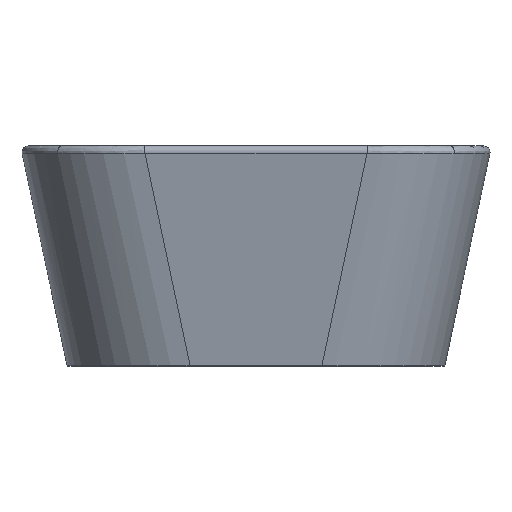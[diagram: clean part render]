
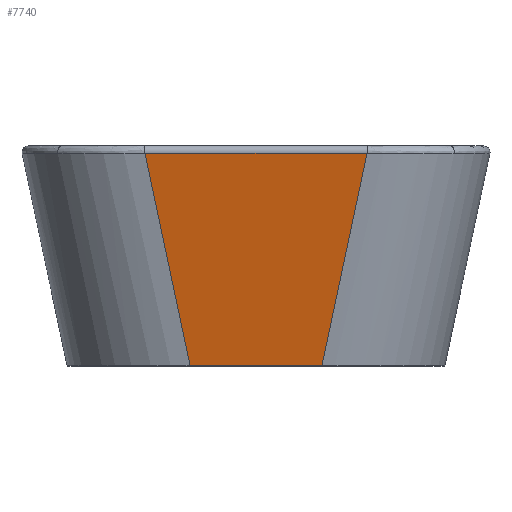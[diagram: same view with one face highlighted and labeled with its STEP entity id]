
A CAD part, top view. The second image highlights one B-rep face of the part: STEP entity #7740.
In plain terms, the highlighted planar face has unit normal (0, -0.208, 0.978).
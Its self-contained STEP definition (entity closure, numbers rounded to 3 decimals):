
#797 = CARTESIAN_POINT ( 'NONE',  ( -70.721, -4.832, 148.973 ) ) ;
#1328 = ORIENTED_EDGE ( 'NONE', *, *, #1596, .T. ) ;
#1560 = ORIENTED_EDGE ( 'NONE', *, *, #10850, .T. ) ;
#1596 = EDGE_CURVE ( 'NONE', #6510, #4782, #10673, .T. ) ;
#2043 = VERTEX_POINT ( 'NONE', #10079 ) ;
#2067 = LINE ( 'NONE', #6976, #12243 ) ;
#2246 = CARTESIAN_POINT ( 'NONE',  ( -150., -4.832, 148.973 ) ) ;
#2581 = ORIENTED_EDGE ( 'NONE', *, *, #10088, .T. ) ;
#2670 = CARTESIAN_POINT ( 'NONE',  ( -41.99, -140., 120.242 ) ) ;
#2882 = EDGE_CURVE ( 'NONE', #4782, #11575, #3366, .T. ) ;
#3092 = FACE_OUTER_BOUND ( 'NONE', #11244, .T. ) ;
#3366 = LINE ( 'NONE', #7092, #7720 ) ;
#4039 = DIRECTION ( 'NONE',  ( 1., 0., 0. ) ) ;
#4103 = VECTOR ( 'NONE', #4039, 1000. ) ;
#4583 = ORIENTED_EDGE ( 'NONE', *, *, #2882, .T. ) ;
#4782 = VERTEX_POINT ( 'NONE', #797 ) ;
#4826 = PLANE ( 'NONE',  #5579 ) ;
#4987 = DIRECTION ( 'NONE',  ( -1., 0., 0. ) ) ;
#5579 = AXIS2_PLACEMENT_3D ( 'NONE', #10585, #7612, #11335 ) ;
#5749 = VECTOR ( 'NONE', #4987, 1000. ) ;
#5809 = DIRECTION ( 'NONE',  ( 0.204, 0.958, 0.204 ) ) ;
#6510 = VERTEX_POINT ( 'NONE', #10270 ) ;
#6976 = CARTESIAN_POINT ( 'NONE',  ( 62.56, -43.228, 140.812 ) ) ;
#7092 = CARTESIAN_POINT ( 'NONE',  ( -74.991, 15.255, 153.242 ) ) ;
#7612 = DIRECTION ( 'NONE',  ( 0., -0.208, 0.978 ) ) ;
#7720 = VECTOR ( 'NONE', #9937, 1000. ) ;
#7740 = ADVANCED_FACE ( 'NONE', ( #3092 ), #4826, .T. ) ;
#7815 = LINE ( 'NONE', #8684, #4103 ) ;
#8684 = CARTESIAN_POINT ( 'NONE',  ( 0., -140., 120.242 ) ) ;
#9937 = DIRECTION ( 'NONE',  ( 0.204, -0.958, -0.204 ) ) ;
#10079 = CARTESIAN_POINT ( 'NONE',  ( 41.99, -140., 120.242 ) ) ;
#10088 = EDGE_CURVE ( 'NONE', #2043, #6510, #2067, .T. ) ;
#10270 = CARTESIAN_POINT ( 'NONE',  ( 70.721, -4.832, 148.973 ) ) ;
#10585 = CARTESIAN_POINT ( 'NONE',  ( -150., 0., 150. ) ) ;
#10673 = LINE ( 'NONE', #2246, #5749 ) ;
#10850 = EDGE_CURVE ( 'NONE', #11575, #2043, #7815, .T. ) ;
#11244 = EDGE_LOOP ( 'NONE', ( #2581, #1328, #4583, #1560 ) ) ;
#11335 = DIRECTION ( 'NONE',  ( 0., -0.978, -0.208 ) ) ;
#11575 = VERTEX_POINT ( 'NONE', #2670 ) ;
#12243 = VECTOR ( 'NONE', #5809, 1000. ) ;
